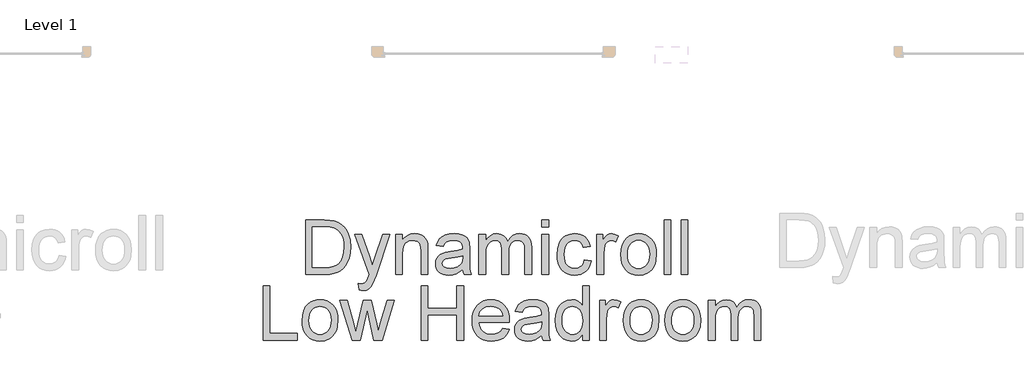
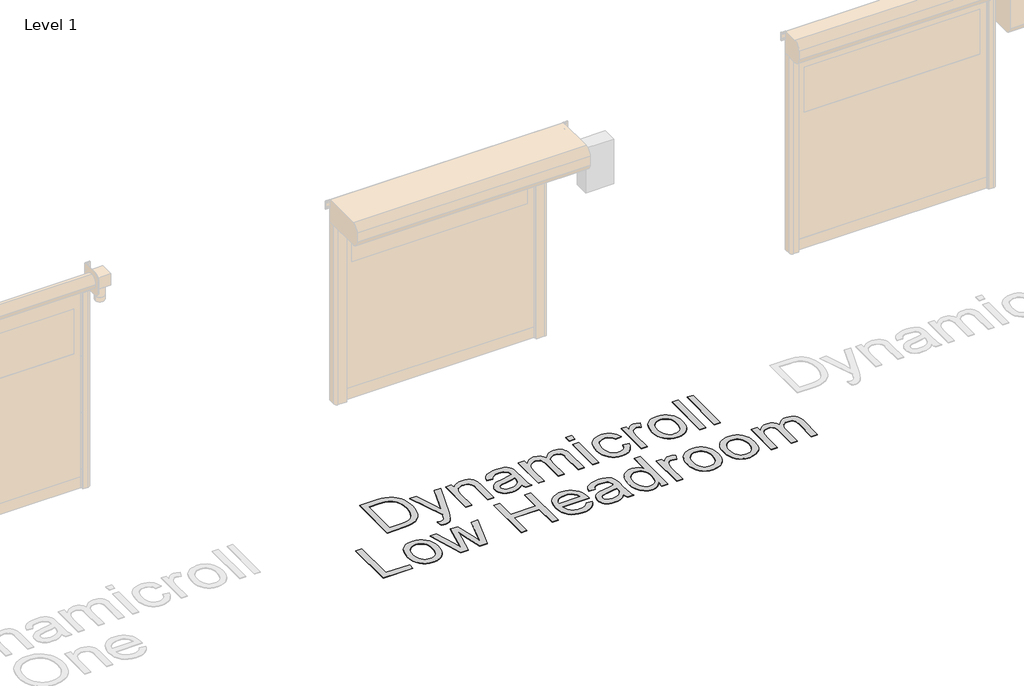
# One storey, part 14 of 20: 1 proxy.
"""IFC4 building model written with IfcOpenShell, lengths in millimetres."""

from ifc_helpers import new_model, si_unit, origin, origin_with_axes, place, context, project, spatial, polyline, outline, extrude, element, save

model = new_model("IFC4")

# Units and contexts
model_context = context("Model", 3, world=origin())
ifc_project = project(units=[si_unit("LENGTHUNIT", "METRE", prefix="MILLI")], contexts=[model_context])

# Site, building, storey
site = spatial("IfcSite", under=ifc_project)
building = spatial("IfcBuilding", under=site)
storey = spatial("IfcBuildingStorey", under=building, Name="Level 1", Elevation=0.0)

# Proxy
placement = place(None, origin())
element("IfcBuildingElementProxy", 1, Name="500mm", ObjectType="500mm", at=placement, inside=storey, context=model_context, shape_type="SweptSolid", body=[
    extrude(outline(polyline([(10253.8603048, 42591.1035648), (10253.8603048, 43093.3851155), (10427.1327245, 43093.3851155), (10478.9121153, 43091.5763624), (10516.773304, 43086.150103), (10556.8111278, 43072.201244), (10590.5949577, 43050.2202948), (10609.2113195, 43032.2553907), (10625.3291494, 43011.9605673), (10638.9484474, 42989.3358246), (10650.0692136, 42964.3811626), (10664.8764639, 42908.4017856), (10669.812214, 42844.9421415), (10666.4706192, 42791.0321008), (10656.4458348, 42743.5906518), (10641.178732, 42703.2002744), (10622.1101819, 42670.4434484), (10600.1598896, 42644.5844098), (10576.2475599, 42624.8873947), (10548.794366, 42610.2794138), (10516.221481, 42599.687478), (10478.4675912, 42593.2495431), (10435.4713831, 42591.1035648), (10253.8603048, 42591.1035648)]), holes=[polyline([(10316.6454986, 42653.8887586), (10427.7458612, 42653.8887586), (10473.7004537, 42656.1573643), (10508.5572728, 42662.9631812), (10534.8608354, 42673.9076705), (10555.1556588, 42688.5922935), (10576.9679955, 42715.7695759), (10593.3540727, 42750.9482917), (10603.6087833, 42794.2817251), (10607.0270201, 42845.9231601), (10605.3523906, 42882.3741345), (10600.3285022, 42914.3492112), (10591.9553547, 42941.8483904), (10580.2329482, 42964.8716719), (10566.1116445, 42983.940222), (10550.5418055, 42999.5752068), (10533.5234311, 43011.7766263), (10515.0565214, 43020.5444805), (10478.9427722, 43028.0860614), (10426.0290785, 43030.5999217), (10316.6454986, 43030.5999217), (10316.6454986, 42653.8887586)])]), origin_with_axes(), (0.0, 0.0, 1.0), 5.0),
    extrude(outline(polyline([(10748.2937063, 42449.8368787), (10740.4455571, 42510.2921532), (10772.3286633, 42504.7739233), (10789.0979509, 42506.5060343), (10802.1271049, 42511.7023675), (10812.2745166, 42519.9950408), (10820.3985773, 42531.0161723), (10837.5664038, 42577.2466763), (10842.4714971, 42592.4524654), (10709.0529601, 42959.9665786), (10775.2717193, 42959.9665786), (10846.0276897, 42755.1789346), (10870.6757834, 42673.2638771), (10895.323877, 42745.6140028), (10968.0418847, 42959.9665786), (11033.7701346, 42959.9665786), (10905.3793182, 42582.2743969), (10872.024684, 42500.3593393), (10854.9488281, 42474.2090608), (10835.6043665, 42456.0908726), (10813.1329079, 42445.5142652), (10786.6760611, 42441.9887294), (10768.4965592, 42443.9507667), (10748.2937063, 42449.8368787)])), origin_with_axes(), (0.0, 0.0, 1.0), 5.0),
    extrude(outline(polyline([(11085.7641232, 42591.1035648), (11085.7641232, 42959.9665786), (11148.549317, 42959.9665786), (11148.549317, 42908.4630993), (11170.3616537, 42934.4294368), (11196.5579174, 42952.9768207), (11227.1381083, 42964.1052511), (11262.1022262, 42967.8147279), (11293.0502991, 42964.8256867), (11321.3925411, 42955.858563), (11345.0289593, 42942.0323314), (11361.8595606, 42924.4659661), (11373.2792309, 42903.2054525), (11380.682856, 42878.2967757), (11383.993794, 42817.5962465), (11383.993794, 42591.1035648), (11321.2086001, 42591.1035648), (11321.2086001, 42809.1349606), (11319.399847, 42841.6005467), (11313.9735875, 42864.6851419), (11303.9641316, 42881.2245032), (11288.4057889, 42894.0543878), (11268.4635191, 42902.2857475), (11245.3022818, 42905.029534), (11226.2375638, 42903.4890282), (11208.5294107, 42898.8675106), (11192.1778224, 42891.1649813), (11177.182799, 42880.3814403), (11164.6556506, 42865.2906143), (11155.7076875, 42844.66623), (11150.3389097, 42818.5082873), (11148.549317, 42786.8167862), (11148.549317, 42591.1035648), (11085.7641232, 42591.1035648)])), origin_with_axes(), (0.0, 0.0, 1.0), 5.0),
    extrude(outline(polyline([(11705.7679124, 42638.1924602), (11675.7702014, 42612.4713774), (11644.8834422, 42595.6407761), (11612.4025277, 42586.3517557), (11577.6223508, 42583.2554156), (11549.6671512, 42585.1178182), (11525.1531812, 42590.705026), (11504.0804407, 42600.017039), (11486.4489296, 42613.0538572), (11472.5268954, 42628.9877461), (11462.5825852, 42646.9909712), (11456.6159991, 42667.0635326), (11454.627137, 42689.2054302), (11457.6315067, 42715.2330813), (11466.6446155, 42738.8694995), (11480.5474893, 42759.1030093), (11498.2211535, 42774.9219351), (11518.9911578, 42786.8780999), (11542.1830519, 42795.5233268), (11596.5069598, 42804.9656313), (11660.702368, 42814.8984452), (11705.4000304, 42826.5480417), (11705.7679124, 42840.5275575), (11701.445299, 42868.5479028), (11688.4774586, 42886.8806889), (11675.4023194, 42894.8208087), (11659.4760947, 42900.4923227), (11619.0703889, 42905.029534), (11581.6690527, 42902.009836), (11555.549431, 42892.9507418), (11537.7378111, 42876.1967826), (11525.2604801, 42850.0924894), (11462.4752863, 42857.9406386), (11473.3737904, 42892.2762915), (11489.6372402, 42919.2543045), (11512.7831491, 42939.8863531), (11544.3290302, 42955.1841127), (11582.9106544, 42964.6570741), (11627.1637928, 42967.8147279), (11669.608178, 42965.0249561), (11703.2540521, 42956.6556407), (11728.6225814, 42944.0710108), (11746.2349319, 42928.6352954), (11757.9151852, 42909.5514169), (11765.487423, 42886.0222976), (11768.5531063, 42831.085253), (11768.5531063, 42752.9716427), (11771.7414169, 42643.8946311), (11776.4625691, 42616.9319465), (11784.2494047, 42591.1035648), (11721.4642109, 42591.1035648), (11711.4087697, 42612.9312298), (11705.7679124, 42638.1924602)]), holes=[polyline([(11705.7679124, 42763.7628479), (11663.5841103, 42753.3088678), (11604.4777364, 42744.5103568), (11550.4603968, 42734.3322883), (11536.4042389, 42727.3731872), (11525.9962441, 42717.7775985), (11519.5583092, 42706.2812861), (11517.4123309, 42693.6200141), (11522.0874979, 42674.9500029), (11536.112999, 42659.6522432), (11559.1822657, 42649.4435179), (11590.9887299, 42646.0406094), (11624.7112461, 42649.7960714), (11654.5096877, 42661.0624575), (11678.6672721, 42677.6631326), (11695.4672165, 42697.4214614), (11702.9168269, 42717.7775985), (11705.4000304, 42745.9818848), (11705.7679124, 42763.7628479)])]), origin_with_axes(), (0.0, 0.0, 1.0), 5.0),
    extrude(outline(polyline([(11854.8827478, 42591.1035648), (11854.8827478, 42959.9665786), (11917.6679416, 42959.9665786), (11917.6679416, 42899.2660494), (11936.5525507, 42927.148439), (11960.8327624, 42948.9914324), (11989.6808422, 42963.108904), (12022.2690556, 42967.8147279), (12057.1871883, 42963.0169335), (12085.1768768, 42948.6235504), (12106.0848368, 42925.5849405), (12119.7577843, 42894.8514655), (12142.6431101, 42926.7728928), (12168.7474033, 42949.5739123), (12198.070664, 42963.254524), (12230.6128922, 42967.8147279), (12255.7476631, 42965.9178363), (12277.8090865, 42960.2271617), (12296.7971624, 42950.742704), (12312.7118908, 42937.4644633), (12325.2926886, 42920.2391553), (12334.2789728, 42898.9134958), (12339.6707432, 42873.487485), (12341.4680001, 42843.9611228), (12341.4680001, 42591.1035648), (12278.6828062, 42591.1035648), (12278.6828062, 42816.9831098), (12277.2266067, 42848.2990647), (12272.858008, 42869.4062942), (12264.6726336, 42883.8609909), (12251.7661069, 42895.2193475), (12235.1654319, 42902.5769874), (12215.8976124, 42905.029534), (12198.105153, 42903.4583713), (12181.8838562, 42898.7448833), (12167.2337222, 42890.8890698), (12154.1547509, 42879.890931), (12143.3980346, 42865.4285701), (12135.7146659, 42847.1800903), (12131.1046446, 42825.1454916), (12129.5679709, 42799.3247741), (12129.5679709, 42591.1035648), (12066.782777, 42591.1035648), (12066.782777, 42823.9728677), (12063.1499423, 42859.4734803), (12052.2514382, 42884.7960243), (12043.8246412, 42893.6481848), (12033.0755892, 42899.9711566), (12004.6107198, 42905.029534), (11980.4224786, 42901.6572824), (11958.1349611, 42891.5405275), (11939.7408613, 42874.9245241), (11927.2328735, 42852.0545267), (11920.0591746, 42820.3247046), (11917.6679416, 42777.129227), (11917.6679416, 42591.1035648), (11854.8827478, 42591.1035648)])), origin_with_axes(), (0.0, 0.0, 1.0), 5.0),
    extrude(outline(polyline([(12435.6457908, 43030.5999217), (12435.6457908, 43093.3851155), (12498.4309847, 43093.3851155), (12498.4309847, 43030.5999217), (12435.6457908, 43030.5999217)])), origin_with_axes(), (0.0, 0.0, 1.0), 5.0),
    extrude(outline(polyline([(12435.6457908, 42591.1035648), (12435.6457908, 42959.9665786), (12498.4309847, 42959.9665786), (12498.4309847, 42591.1035648), (12435.6457908, 42591.1035648)])), origin_with_axes(), (0.0, 0.0, 1.0), 5.0),
    extrude(outline(polyline([(12828.0532524, 42724.5221017), (12890.8384462, 42716.6739525), (12884.0096367, 42687.0479556), (12873.3333946, 42660.8325313), (12858.80972, 42638.0276797), (12840.4386129, 42618.6334008), (12818.9941582, 42603.1555322), (12795.2504411, 42592.0999119), (12769.2074615, 42585.4665396), (12740.8652195, 42583.2554156), (12705.6520148, 42586.3402594), (12674.079309, 42595.5947908), (12646.1471021, 42611.0190099), (12621.8553941, 42632.6129166), (12602.1928678, 42659.9703079), (12588.1482063, 42692.6849807), (12579.7214093, 42730.7569351), (12576.912477, 42774.1861711), (12581.7102713, 42830.0582491), (12596.1036544, 42878.4807167), (12606.9561733, 42899.4308299), (12620.3225524, 42917.5835071), (12636.2027919, 42932.9387483), (12654.5968916, 42945.4965535), (12695.6004057, 42962.2351843), (12740.0068282, 42967.8147279), (12767.862393, 42965.8986758), (12793.0584776, 42960.1505196), (12815.5950819, 42950.5702593), (12835.4722059, 42937.1578949), (12852.3526246, 42920.2199947), (12865.8991126, 42900.0631271), (12876.1116701, 42876.687292), (12882.990297, 42850.0924894), (12820.2051031, 42842.2443402), (12808.8160897, 42869.6362204), (12791.0811118, 42889.2719219), (12767.9811882, 42901.090131), (12740.4973375, 42905.029534), (12719.1640139, 42903.0904893), (12699.9230191, 42897.2733553), (12682.7743532, 42887.5781319), (12667.7180161, 42874.0048191), (12655.4591151, 42856.2391844), (12646.7027572, 42833.9669953), (12641.4489424, 42807.1882517), (12639.6976708, 42775.9029537), (12641.4106214, 42744.1463069), (12646.549473, 42717.0571629), (12655.1142257, 42694.6355217), (12667.1048795, 42676.8813833), (12681.8623124, 42663.3885447), (12698.7274026, 42653.7508029), (12717.7001501, 42647.9681578), (12738.7805549, 42646.0406094), (12771.2921262, 42650.8537322), (12797.9482424, 42665.2931005), (12808.7279513, 42676.2145972), (12817.3386893, 42689.7265963), (12828.0532524, 42724.5221017)])), origin_with_axes(), (0.0, 0.0, 1.0), 5.0),
    extrude(outline(polyline([(12945.7754908, 42591.1035648), (12945.7754908, 42959.9665786), (13000.7125354, 42959.9665786), (13000.7125354, 42905.397416), (13021.0073588, 42937.0352676), (13039.7080269, 42955.674622), (13058.4700087, 42964.7797014), (13078.9487731, 42967.8147279), (13110.2187427, 42962.9709483), (13141.9792216, 42948.4396094), (13121.0099479, 42892.1536642), (13098.9370281, 42901.8105666), (13076.8641084, 42905.029534), (13058.1174551, 42901.9331939), (13041.3634959, 42892.6441735), (13027.8285042, 42877.86758), (13018.7387532, 42858.3085206), (13011.1052018, 42823.2371038), (13008.5606847, 42784.9773763), (13008.5606847, 42591.1035648), (12945.7754908, 42591.1035648)])), origin_with_axes(), (0.0, 0.0, 1.0), 5.0),
    extrude(outline(polyline([(13165.5236693, 42775.5350717), (13168.9189135, 42823.3060816), (13179.1046463, 42864.470544), (13196.0808675, 42899.028459), (13219.8475772, 42926.9798264), (13243.7752353, 42944.8450958), (13270.1860969, 42957.6060025), (13299.0801619, 42965.2625465), (13330.4574304, 42967.8147279), (13365.0958195, 42964.7068914), (13396.4156065, 42955.3833821), (13424.4167913, 42939.8441999), (13449.0993739, 42918.0893448), (13469.2447452, 42890.8545809), (13483.6342962, 42858.875672), (13492.2680268, 42822.1526183), (13495.1459369, 42780.6854196), (13490.0569027, 42717.2564323), (13483.6956098, 42691.2211169), (13474.7897999, 42668.9719204), (13463.4506038, 42649.7539183), (13449.7891526, 42632.812186), (13433.8054464, 42618.1467235), (13415.499485, 42605.7575309), (13374.7718824, 42588.8809444), (13330.4574304, 42583.2554156), (13295.3132036, 42586.3517557), (13263.7021767, 42595.6407761), (13235.6243499, 42611.1224767), (13211.079723, 42632.7968576), (13191.1489495, 42660.2960367), (13176.9126827, 42693.2521321), (13168.3709226, 42731.6651438), (13165.5236693, 42775.5350717)]), holes=[polyline([(13228.3088631, 42775.657699), (13230.1252805, 42745.2039676), (13235.5745325, 42718.8352592), (13244.6566193, 42696.5515738), (13257.3715407, 42678.3529113), (13272.8379129, 42664.2162792), (13290.174352, 42654.1186849), (13309.3808578, 42648.0601283), (13330.4574304, 42646.0406094), (13351.4267042, 42648.0716246), (13370.5565679, 42654.1646701), (13387.8470217, 42664.319746), (13403.2980655, 42678.5368523), (13416.0129869, 42696.9156237), (13425.0950737, 42719.5556948), (13430.5443258, 42746.4570657), (13432.3607431, 42777.6197364), (13430.5328294, 42807.1077775), (13425.0490885, 42832.7867072), (13415.9095201, 42854.6565254), (13403.1141245, 42872.7172321), (13387.6055991, 42886.8538642), (13370.3266417, 42896.9514585), (13351.2772521, 42903.0100151), (13330.4574304, 42905.029534), (13309.3808578, 42903.0176794), (13290.174352, 42896.9821154), (13272.8379129, 42886.9228421), (13257.3715407, 42872.8398594), (13244.6566193, 42854.6948464), (13235.5745325, 42832.4494821), (13230.1252805, 42806.1037663), (13228.3088631, 42775.657699)])]), origin_with_axes(), (0.0, 0.0, 1.0), 5.0),
    extrude(outline(polyline([(13565.77928, 42591.1035648), (13565.77928, 43093.3851155), (13628.5644739, 43093.3851155), (13628.5644739, 42591.1035648), (13565.77928, 42591.1035648)])), origin_with_axes(), (0.0, 0.0, 1.0), 5.0),
    extrude(outline(polyline([(13722.7422646, 42591.1035648), (13722.7422646, 43093.3851155), (13785.5274585, 43093.3851155), (13785.5274585, 42591.1035648), (13722.7422646, 42591.1035648)])), origin_with_axes(), (0.0, 0.0, 1.0), 5.0),
    extrude(outline(polyline([(9861.4528433, 41981.2294756), (9861.4528433, 42483.5110263), (9924.2380371, 42483.5110263), (9924.2380371, 42044.0146694), (10175.3788125, 42044.0146694), (10175.3788125, 41981.2294756), (9861.4528433, 41981.2294756)])), origin_with_axes(), (0.0, 0.0, 1.0), 5.0),
    extrude(outline(polyline([(10222.4677079, 42165.6609825), (10225.8629521, 42213.4319924), (10236.0486848, 42254.5964548), (10253.0249061, 42289.1543697), (10276.7916158, 42317.1057372), (10300.7192739, 42334.9710066), (10327.1301355, 42347.7319133), (10356.0242005, 42355.3884573), (10387.401469, 42357.9406386), (10422.0398581, 42354.8328022), (10453.3596451, 42345.5092929), (10481.3608299, 42329.9701107), (10506.0434125, 42308.2152556), (10526.1887838, 42280.9804917), (10540.5783348, 42249.0015828), (10549.2120653, 42212.2785291), (10552.0899755, 42170.8113304), (10547.0009413, 42107.3823431), (10540.6396484, 42081.3470277), (10531.7338385, 42059.0978312), (10520.3946424, 42039.8798291), (10506.7331912, 42022.9380968), (10490.7494849, 42008.2726343), (10472.4435236, 41995.8834417), (10431.715921, 41979.0068552), (10387.401469, 41973.3813263), (10352.2572422, 41976.4776665), (10320.6462153, 41985.7666868), (10292.5683885, 42001.2483875), (10268.0237616, 42022.9227684), (10248.0929881, 42050.4219475), (10233.8567213, 42083.3780429), (10225.3149612, 42121.7910546), (10222.4677079, 42165.6609825)]), holes=[polyline([(10285.2529017, 42165.7836098), (10287.0693191, 42135.3298784), (10292.5185711, 42108.96117), (10301.6006579, 42086.6774845), (10314.3155793, 42068.4788221), (10329.7819515, 42054.34219), (10347.1183906, 42044.2445957), (10366.3248964, 42038.1860391), (10387.401469, 42036.1665202), (10408.3707428, 42038.1975354), (10427.5006065, 42044.2905809), (10444.7910603, 42054.4456568), (10460.2421041, 42068.6627631), (10472.9570255, 42087.0415344), (10482.0391123, 42109.6816056), (10487.4883643, 42136.5829765), (10489.3047817, 42167.7456471), (10487.476868, 42197.2336883), (10481.993127, 42222.912618), (10472.8535587, 42244.7824362), (10460.0581631, 42262.8431429), (10444.5496377, 42276.979775), (10427.2706803, 42287.0773693), (10408.2212907, 42293.1359259), (10387.401469, 42295.1554448), (10366.3248964, 42293.1435901), (10347.1183906, 42287.1080261), (10329.7819515, 42277.0487528), (10314.3155793, 42262.9657702), (10301.6006579, 42244.8207572), (10292.5185711, 42222.5753928), (10287.0693191, 42196.229677), (10285.2529017, 42165.7836098)])]), origin_with_axes(), (0.0, 0.0, 1.0), 5.0),
    extrude(outline(polyline([(10683.9143571, 41981.2294756), (10571.7103486, 42350.0924894), (10636.9480891, 42350.0924894), (10700.5916743, 42134.8815222), (10719.5989107, 42057.9941852), (10735.1725818, 42132.0610936), (10785.8176698, 42350.0924894), (10860.6203422, 42350.0924894), (10911.0201755, 42132.6742303), (10924.877064, 42065.5970798), (10944.7426917, 42136.3530502), (11008.5089042, 42350.0924894), (11073.9918994, 42350.0924894), (10960.9294995, 41981.2294756), (10885.0231812, 41981.2294756), (10836.8306398, 42197.5440887), (10822.851124, 42264.9891212), (10760.6790668, 41981.2294756), (10683.9143571, 41981.2294756)])), origin_with_axes(), (0.0, 0.0, 1.0), 5.0),
    extrude(outline(polyline([(11321.2086001, 41981.2294756), (11321.2086001, 42483.5110263), (11383.993794, 42483.5110263), (11383.993794, 42279.4591463), (11650.8308678, 42279.4591463), (11650.8308678, 42483.5110263), (11713.6160616, 42483.5110263), (11713.6160616, 41981.2294756), (11650.8308678, 41981.2294756), (11650.8308678, 42216.6739525), (11383.993794, 42216.6739525), (11383.993794, 41981.2294756), (11321.2086001, 41981.2294756)])), origin_with_axes(), (0.0, 0.0, 1.0), 5.0),
    extrude(outline(polyline([(12073.8951622, 42091.1035648), (12135.4540828, 42083.2554156), (12126.0156103, 42058.5996577), (12113.2738641, 42036.8716273), (12097.2288442, 42018.0713245), (12077.8805505, 42002.1987493), (12055.4282525, 41989.5911268), (12030.0712196, 41980.5856821), (12001.8094517, 41975.1824153), (11970.6429489, 41973.3813263), (11931.6857785, 41976.4891628), (11896.9745794, 41985.8126721), (11866.5093517, 42001.3518543), (11840.2900953, 42023.1067094), (11819.2058585, 42050.4717649), (11804.1456893, 42082.8415483), (11795.1095878, 42120.2160598), (11792.0975539, 42162.5952992), (11795.1402446, 42206.4115777), (11804.2683166, 42245.0315229), (11819.48177, 42278.4551351), (11840.7806046, 42306.682414), (11866.9308831, 42329.1078873), (11896.6986679, 42345.1260825), (11930.083959, 42354.7369996), (11967.0867563, 42357.9406386), (12002.8977693, 42354.7446638), (12035.2828812, 42345.1567393), (12064.242092, 42329.1768651), (12089.7754017, 42306.8050413), (12110.618216, 42278.639076), (12125.5059405, 42245.2767776), (12134.4385752, 42206.718146), (12137.4161201, 42162.9631812), (12137.0482381, 42146.0406094), (11854.8827478, 42146.0406094), (11858.5194146, 42120.9863127), (11865.7505951, 42099.0436845), (11876.5762892, 42080.2127249), (11890.996497, 42064.4934338), (11908.2141408, 42052.1004091), (11927.4321429, 42043.2482486), (11948.6505034, 42037.9369523), (11971.8692223, 42036.1665202), (12005.2851701, 42039.4468013), (12033.4281428, 42049.2876447), (12056.2981401, 42066.302187), (12073.8951622, 42091.1035648)]), holes=[polyline([(11854.8827478, 42208.8258033), (12074.6309262, 42208.8258033), (12066.1389835, 42241.9964965), (12049.4923232, 42265.7248852), (12032.370482, 42278.600755), (12012.8880647, 42287.7978049), (11991.0450713, 42293.3160348), (11966.8415017, 42295.1554448), (11924.5197438, 42289.2846613), (11906.1064835, 42281.9461819), (11889.524969, 42271.6723108), (11875.610599, 42258.9382288), (11865.1987721, 42244.2191169), (11858.2894883, 42227.514975), (11854.8827478, 42208.8258033)])]), origin_with_axes(), (0.0, 0.0, 1.0), 5.0),
    extrude(outline(polyline([(12435.6457908, 42028.318371), (12405.6480798, 42002.5972881), (12374.7613206, 41985.7666868), (12342.2804061, 41976.4776665), (12307.5002292, 41973.3813263), (12279.5450297, 41975.2437289), (12255.0310596, 41980.8309367), (12233.9583191, 41990.1429497), (12216.326808, 42003.179768), (12202.4047738, 42019.1136569), (12192.4604636, 42037.116882), (12186.4938775, 42057.1894434), (12184.5050155, 42079.331341), (12187.5093851, 42105.3589921), (12196.522494, 42128.9954103), (12210.4253677, 42149.22892), (12228.0990319, 42165.0478458), (12248.8690362, 42177.0040107), (12272.0609303, 42185.6492376), (12326.3848383, 42195.0915421), (12390.5802464, 42205.024356), (12435.2779088, 42216.6739525), (12435.6457908, 42230.6534683), (12431.3231774, 42258.6738136), (12418.3553371, 42277.0065997), (12405.2801978, 42284.9467194), (12389.3539731, 42290.6182335), (12348.9482673, 42295.1554448), (12311.5469311, 42292.1357467), (12285.4273095, 42283.0766526), (12267.6156895, 42266.3226934), (12255.1383585, 42240.2184002), (12192.3531647, 42248.0665494), (12203.2516688, 42282.4022023), (12219.5151187, 42309.3802153), (12242.6610275, 42330.0122638), (12274.2069086, 42345.3100235), (12312.7885329, 42354.7829848), (12357.0416712, 42357.9406386), (12399.4860564, 42355.1508668), (12433.1319305, 42346.7815514), (12458.5004598, 42334.1969215), (12476.1128103, 42318.7612061), (12487.7930637, 42299.6773276), (12495.3653014, 42276.1482084), (12498.4309847, 42221.2111638), (12498.4309847, 42143.0975535), (12501.6192953, 42034.0205419), (12506.3404476, 42007.0578573), (12514.1272831, 41981.2294756), (12451.3420893, 41981.2294756), (12441.2866481, 42003.0571406), (12435.6457908, 42028.318371)]), holes=[polyline([(12435.6457908, 42153.8887586), (12393.4619887, 42143.4347786), (12334.3556148, 42134.6362676), (12280.3382752, 42124.458199), (12266.2821173, 42117.499098), (12255.8741225, 42107.9035092), (12249.4361876, 42096.4071969), (12247.2902093, 42083.7459249), (12251.9653763, 42065.0759136), (12265.9908774, 42049.778154), (12289.0601442, 42039.5694286), (12320.8666083, 42036.1665202), (12354.5891246, 42039.9219822), (12384.3875662, 42051.1883683), (12408.5451505, 42067.7890434), (12425.345095, 42087.5473722), (12432.7947054, 42107.9035092), (12435.2779088, 42136.1077955), (12435.6457908, 42153.8887586)])]), origin_with_axes(), (0.0, 0.0, 1.0), 5.0),
    extrude(outline(polyline([(12812.3569539, 41981.2294756), (12812.3569539, 42040.4584768), (12793.5719795, 42011.1122235), (12770.8169453, 41990.150614), (12744.0918512, 41977.5736482), (12713.3966972, 41973.3813263), (12672.8070504, 41979.4513793), (12635.6509689, 41997.661538), (12604.1970583, 42026.7395441), (12580.7139243, 42065.4131388), (12566.090615, 42112.1188238), (12561.2161785, 42165.2931005), (12565.7074046, 42217.8082553), (12579.1810826, 42265.2343759), (12589.2825091, 42286.3645979), (12601.6218843, 42304.8736608), (12616.1992084, 42320.7615645), (12633.0144813, 42334.0283089), (12670.9829688, 42351.9625562), (12713.1514425, 42357.9406386), (12743.8695891, 42353.6640104), (12771.0315431, 42340.8341259), (12794.0548246, 42321.1677675), (12812.3569539, 42296.3817181), (12812.3569539, 42483.5110263), (12875.1421477, 42483.5110263), (12875.1421477, 41981.2294756), (12812.3569539, 41981.2294756)]), holes=[polyline([(12624.0013724, 42165.5383552), (12625.7718045, 42135.092288), (12631.0831008, 42108.7465722), (12639.9352613, 42086.5012078), (12652.328286, 42068.3561948), (12667.1278721, 42054.2732121), (12683.1997168, 42044.2139388), (12700.54382, 42038.1783748), (12719.1601818, 42036.1665202), (12737.864682, 42038.0864043), (12755.1053184, 42043.8460568), (12770.882091, 42053.4454776), (12785.1949999, 42066.8846668), (12797.0783548, 42084.2709232), (12805.5664654, 42105.7115457), (12810.6593318, 42131.2065344), (12812.3569539, 42160.7558892), (12810.6286749, 42193.1524974), (12805.4438381, 42220.9352523), (12796.8024433, 42244.1041538), (12784.7044906, 42262.6592019), (12770.0773492, 42276.8763082), (12753.8483883, 42287.0313841), (12736.0176078, 42293.1244296), (12716.5850078, 42295.1554448), (12697.600764, 42293.2049038), (12680.2566608, 42287.3532808), (12664.5526981, 42277.6005758), (12650.488876, 42263.9467889), (12638.9005932, 42246.0930158), (12630.6232483, 42223.7403525), (12625.6568413, 42196.8887989), (12624.0013724, 42165.5383552)])]), origin_with_axes(), (0.0, 0.0, 1.0), 5.0),
    extrude(outline(polyline([(12969.3199385, 41981.2294756), (12969.3199385, 42350.0924894), (13024.2569831, 42350.0924894), (13024.2569831, 42295.5233268), (13044.5518065, 42327.1611784), (13063.2524746, 42345.8005328), (13082.0144564, 42354.9056122), (13102.4932208, 42357.9406386), (13133.7631904, 42353.096859), (13165.5236693, 42338.5655202), (13144.5543955, 42282.279575), (13122.4814758, 42291.9364773), (13100.4085561, 42295.1554448), (13081.6619028, 42292.0591047), (13064.9079436, 42282.7700843), (13051.3729519, 42267.9934908), (13042.2832009, 42248.4344314), (13034.6496495, 42213.3630145), (13032.1051324, 42175.103287), (13032.1051324, 41981.2294756), (12969.3199385, 41981.2294756)])), origin_with_axes(), (0.0, 0.0, 1.0), 5.0),
    extrude(outline(polyline([(13189.068117, 42165.6609825), (13192.4633612, 42213.4319924), (13202.649094, 42254.5964548), (13219.6253152, 42289.1543697), (13243.3920249, 42317.1057372), (13267.319683, 42334.9710066), (13293.7305446, 42347.7319133), (13322.6246096, 42355.3884573), (13354.0018781, 42357.9406386), (13388.6402672, 42354.8328022), (13419.9600542, 42345.5092929), (13447.961239, 42329.9701107), (13472.6438216, 42308.2152556), (13492.7891929, 42280.9804917), (13507.1787439, 42249.0015828), (13515.8124744, 42212.2785291), (13518.6903846, 42170.8113304), (13513.6013504, 42107.3823431), (13507.2400575, 42081.3470277), (13498.3342476, 42059.0978312), (13486.9950515, 42039.8798291), (13473.3336003, 42022.9380968), (13457.349894, 42008.2726343), (13439.0439327, 41995.8834417), (13398.3163301, 41979.0068552), (13354.0018781, 41973.3813263), (13318.8576513, 41976.4776665), (13287.2466244, 41985.7666868), (13259.1687976, 42001.2483875), (13234.6241707, 42022.9227684), (13214.6933972, 42050.4219475), (13200.4571304, 42083.3780429), (13191.9153703, 42121.7910546), (13189.068117, 42165.6609825)]), holes=[polyline([(13251.8533108, 42165.7836098), (13253.6697282, 42135.3298784), (13259.1189802, 42108.96117), (13268.201067, 42086.6774845), (13280.9159884, 42068.4788221), (13296.3823606, 42054.34219), (13313.7187997, 42044.2445957), (13332.9253055, 42038.1860391), (13354.0018781, 42036.1665202), (13374.9711519, 42038.1975354), (13394.1010156, 42044.2905809), (13411.3914694, 42054.4456568), (13426.8425132, 42068.6627631), (13439.5574346, 42087.0415344), (13448.6395214, 42109.6816056), (13454.0887734, 42136.5829765), (13455.9051908, 42167.7456471), (13454.0772771, 42197.2336883), (13448.5935361, 42222.912618), (13439.4539678, 42244.7824362), (13426.6585722, 42262.8431429), (13411.1500468, 42276.979775), (13393.8710894, 42287.0773693), (13374.8216998, 42293.1359259), (13354.0018781, 42295.1554448), (13332.9253055, 42293.1435901), (13313.7187997, 42287.1080261), (13296.3823606, 42277.0487528), (13280.9159884, 42262.9657702), (13268.201067, 42244.8207572), (13259.1189802, 42222.5753928), (13253.6697282, 42196.229677), (13251.8533108, 42165.7836098)])]), origin_with_axes(), (0.0, 0.0, 1.0), 5.0),
    extrude(outline(polyline([(13573.6274293, 42165.6609825), (13577.0226735, 42213.4319924), (13587.2084062, 42254.5964548), (13604.1846275, 42289.1543697), (13627.9513372, 42317.1057372), (13651.8789953, 42334.9710066), (13678.2898569, 42347.7319133), (13707.1839219, 42355.3884573), (13738.5611904, 42357.9406386), (13773.1995795, 42354.8328022), (13804.5193665, 42345.5092929), (13832.5205513, 42329.9701107), (13857.2031339, 42308.2152556), (13877.3485052, 42280.9804917), (13891.7380562, 42249.0015828), (13900.3717867, 42212.2785291), (13903.2496969, 42170.8113304), (13898.1606627, 42107.3823431), (13891.7993698, 42081.3470277), (13882.8935599, 42059.0978312), (13871.5543638, 42039.8798291), (13857.8929126, 42022.9380968), (13841.9092063, 42008.2726343), (13823.603245, 41995.8834417), (13782.8756424, 41979.0068552), (13738.5611904, 41973.3813263), (13703.4169636, 41976.4776665), (13671.8059367, 41985.7666868), (13643.7281099, 42001.2483875), (13619.183483, 42022.9227684), (13599.2527095, 42050.4219475), (13585.0164427, 42083.3780429), (13576.4746826, 42121.7910546), (13573.6274293, 42165.6609825)]), holes=[polyline([(13636.4126231, 42165.7836098), (13638.2290404, 42135.3298784), (13643.6782925, 42108.96117), (13652.7603793, 42086.6774845), (13665.4753007, 42068.4788221), (13680.9416729, 42054.34219), (13698.278112, 42044.2445957), (13717.4846178, 42038.1860391), (13738.5611904, 42036.1665202), (13759.5304641, 42038.1975354), (13778.6603279, 42044.2905809), (13795.9507817, 42054.4456568), (13811.4018255, 42068.6627631), (13824.1167469, 42087.0415344), (13833.1988337, 42109.6816056), (13838.6480857, 42136.5829765), (13840.4645031, 42167.7456471), (13838.6365894, 42197.2336883), (13833.1528484, 42222.912618), (13824.0132801, 42244.7824362), (13811.2178845, 42262.8431429), (13795.7093591, 42276.979775), (13778.4304017, 42287.0773693), (13759.3810121, 42293.1359259), (13738.5611904, 42295.1554448), (13717.4846178, 42293.1435901), (13698.278112, 42287.1080261), (13680.9416729, 42277.0487528), (13665.4753007, 42262.9657702), (13652.7603793, 42244.8207572), (13643.6782925, 42222.5753928), (13638.2290404, 42196.229677), (13636.4126231, 42165.7836098)])]), origin_with_axes(), (0.0, 0.0, 1.0), 5.0),
    extrude(outline(polyline([(13973.88304, 41981.2294756), (13973.88304, 42350.0924894), (14036.6682338, 42350.0924894), (14036.6682338, 42289.3919602), (14055.5528429, 42317.2743498), (14079.8330546, 42339.1173432), (14108.6811344, 42353.2348148), (14141.2693478, 42357.9406386), (14176.1874805, 42353.1428443), (14204.177169, 42338.7494612), (14225.085129, 42315.7108513), (14238.7580765, 42284.9773763), (14261.6434023, 42316.8988035), (14287.7476956, 42339.699823), (14317.0709563, 42353.3804347), (14349.6131844, 42357.9406386), (14374.7479553, 42356.0437471), (14396.8093787, 42350.3530725), (14415.7974546, 42340.8686148), (14431.712183, 42327.590374), (14444.2929808, 42310.365066), (14453.279265, 42289.0394066), (14458.6710355, 42263.6133958), (14460.4682923, 42234.0870336), (14460.4682923, 41981.2294756), (14397.6830984, 41981.2294756), (14397.6830984, 42207.1090206), (14396.2268989, 42238.4249755), (14391.8583002, 42259.5322049), (14383.6729258, 42273.9869017), (14370.7663991, 42285.3452583), (14354.1657241, 42292.7028982), (14334.8979046, 42295.1554448), (14317.1054452, 42293.5842821), (14300.8841485, 42288.870794), (14286.2340144, 42281.0149806), (14273.1550431, 42270.0168418), (14262.3983268, 42255.5544809), (14254.7149581, 42237.306001), (14250.1049368, 42215.2714024), (14248.5682631, 42189.4506848), (14248.5682631, 41981.2294756), (14185.7830692, 41981.2294756), (14185.7830692, 42214.0987785), (14182.1502345, 42249.5993911), (14171.2517304, 42274.9219351), (14162.8249335, 42283.7740956), (14152.0758814, 42290.0970674), (14123.611012, 42295.1554448), (14099.4227709, 42291.7831932), (14077.1352533, 42281.6664383), (14058.7411536, 42265.0504349), (14046.2331657, 42242.1804375), (14039.0594668, 42210.4506154), (14036.6682338, 42167.2551378), (14036.6682338, 41981.2294756), (13973.88304, 41981.2294756)])), origin_with_axes(), (0.0, 0.0, 1.0), 5.0),
])

save(model, "model.ifc")
